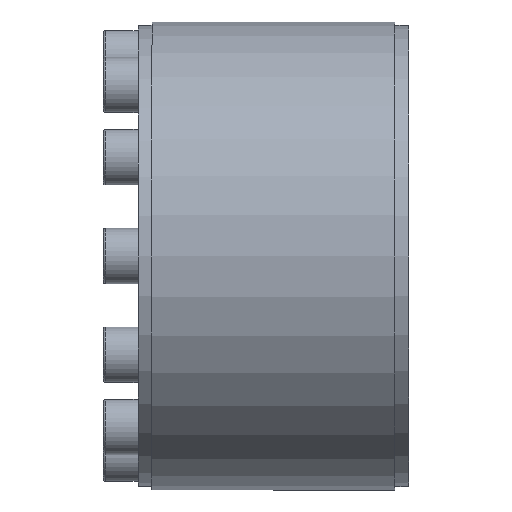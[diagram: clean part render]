
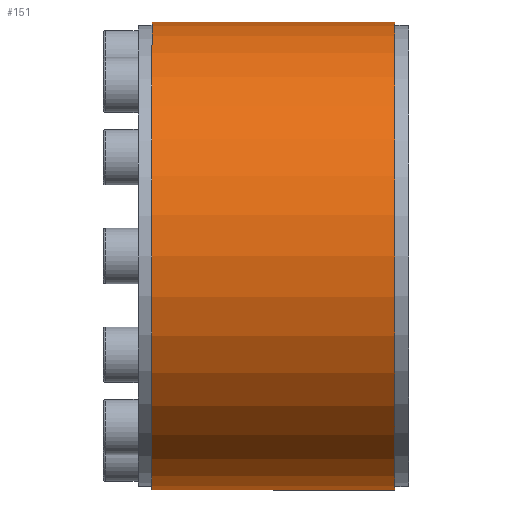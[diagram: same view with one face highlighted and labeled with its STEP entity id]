
A CAD part, left-side view. The second image highlights one B-rep face of the part: STEP entity #151.
In plain terms, the highlighted cylindrical face has radius 67.5 mm (diameter 135 mm), a partial arc.
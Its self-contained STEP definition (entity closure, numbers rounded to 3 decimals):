
#101 = DIRECTION ( 'NONE',  ( 0., 0., -1. ) ) ;
#151 = ADVANCED_FACE ( 'NONE', ( #2659 ), #4015, .T. ) ;
#250 = VERTEX_POINT ( 'NONE', #4430 ) ;
#286 = VECTOR ( 'NONE', #742, 1000. ) ;
#390 = LINE ( 'NONE', #755, #286 ) ;
#508 = ORIENTED_EDGE ( 'NONE', *, *, #1475, .T. ) ;
#617 = CARTESIAN_POINT ( 'NONE',  ( 0., 35., -67.5 ) ) ;
#739 = AXIS2_PLACEMENT_3D ( 'NONE', #1267, #1608, #1595 ) ;
#742 = DIRECTION ( 'NONE',  ( 0., -1., 0. ) ) ;
#755 = CARTESIAN_POINT ( 'NONE',  ( 0., 0., -67.5 ) ) ;
#933 = LINE ( 'NONE', #1628, #2319 ) ;
#950 = VERTEX_POINT ( 'NONE', #4127 ) ;
#968 = EDGE_CURVE ( 'NONE', #1708, #1848, #390, .T. ) ;
#1267 = CARTESIAN_POINT ( 'NONE',  ( 0., 35., 0. ) ) ;
#1475 = EDGE_CURVE ( 'NONE', #250, #1708, #1549, .T. ) ;
#1549 = CIRCLE ( 'NONE', #739, 67.5 ) ;
#1595 = DIRECTION ( 'NONE',  ( 0., 0., -1. ) ) ;
#1608 = DIRECTION ( 'NONE',  ( 0., -1., 0. ) ) ;
#1628 = CARTESIAN_POINT ( 'NONE',  ( 0., 0., 67.5 ) ) ;
#1708 = VERTEX_POINT ( 'NONE', #617 ) ;
#1848 = VERTEX_POINT ( 'NONE', #4107 ) ;
#2319 = VECTOR ( 'NONE', #2666, 1000. ) ;
#2482 = AXIS2_PLACEMENT_3D ( 'NONE', #2911, #4287, #101 ) ;
#2560 = EDGE_CURVE ( 'NONE', #950, #1848, #3522, .T. ) ;
#2659 = FACE_OUTER_BOUND ( 'NONE', #3383, .T. ) ;
#2666 = DIRECTION ( 'NONE',  ( 0., -1., 0. ) ) ;
#2911 = CARTESIAN_POINT ( 'NONE',  ( 0., -35., 0. ) ) ;
#2956 = DIRECTION ( 'NONE',  ( 0., 0., -1. ) ) ;
#3282 = DIRECTION ( 'NONE',  ( 0., -1., 0. ) ) ;
#3383 = EDGE_LOOP ( 'NONE', ( #4254, #508, #4097, #4468 ) ) ;
#3522 = CIRCLE ( 'NONE', #2482, 67.5 ) ;
#3618 = CARTESIAN_POINT ( 'NONE',  ( 0., 0., 0. ) ) ;
#3643 = EDGE_CURVE ( 'NONE', #250, #950, #933, .T. ) ;
#4005 = AXIS2_PLACEMENT_3D ( 'NONE', #3618, #3282, #2956 ) ;
#4015 = CYLINDRICAL_SURFACE ( 'NONE', #4005, 67.5 ) ;
#4097 = ORIENTED_EDGE ( 'NONE', *, *, #968, .T. ) ;
#4107 = CARTESIAN_POINT ( 'NONE',  ( 0., -35., -67.5 ) ) ;
#4127 = CARTESIAN_POINT ( 'NONE',  ( 0., -35., 67.5 ) ) ;
#4254 = ORIENTED_EDGE ( 'NONE', *, *, #3643, .F. ) ;
#4287 = DIRECTION ( 'NONE',  ( 0., -1., 0. ) ) ;
#4430 = CARTESIAN_POINT ( 'NONE',  ( 0., 35., 67.5 ) ) ;
#4468 = ORIENTED_EDGE ( 'NONE', *, *, #2560, .F. ) ;
